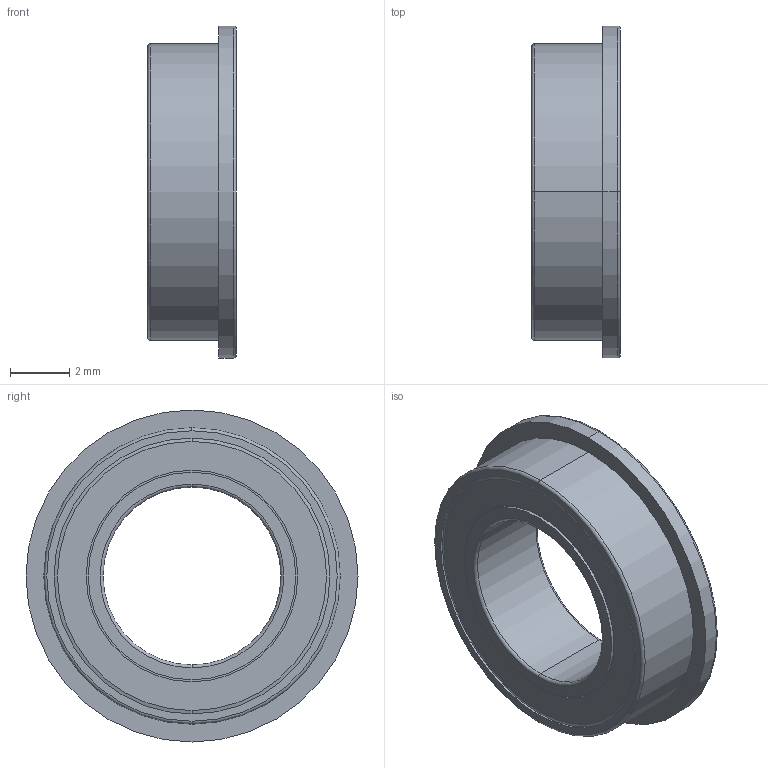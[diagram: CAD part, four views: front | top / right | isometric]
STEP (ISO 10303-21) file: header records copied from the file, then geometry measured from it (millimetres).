
FILE_DESCRIPTION((''),'2;1');
FILE_NAME('BEARING_MF106ZZ','2006-12-27T',('bono'),(''),'PRO/ENGINEER BY PARAMETRIC TECHNOLOGY CORPORATION, 2006170','PRO/ENGINEER BY PARAMETRIC TECHNOLOGY CORPORATION, 2006170','');
FILE_SCHEMA(('CONFIG_CONTROL_DESIGN'));
Length unit declared in the file: millimetre
Products named in the file (1): BEARING_MF106ZZ
Bounding box: 3 x 11.2 x 11.2 mm (x, y, z)
Volume: 112.7 mm3; surface area: 558 mm2
Topology: 18 solids, 19 shells, 125 faces, 289 edges, 141 vertices
Faces by surface type: sphere 68, cylinder 26, torus 16, plane 11, cone 4
Entity records: 3604 total; most frequent: CARTESIAN_POINT 1063, DIRECTION 598, ORIENTED_EDGE 442, AXIS2_PLACEMENT_3D 284, EDGE_CURVE 221, CIRCLE 159, VERTEX_POINT 141, EDGE_LOOP 136
